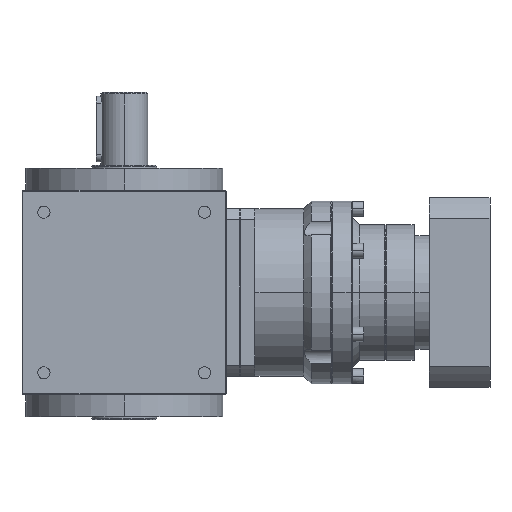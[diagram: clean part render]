
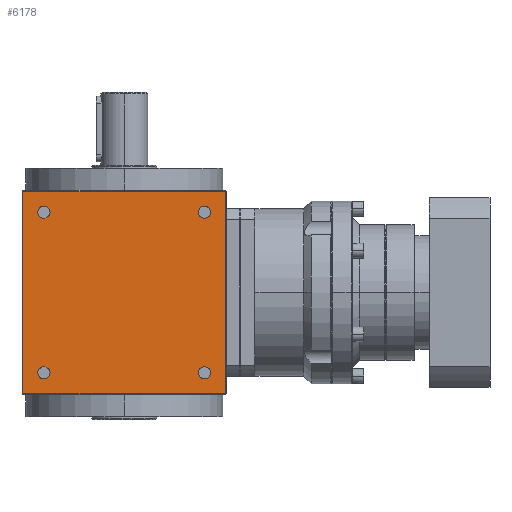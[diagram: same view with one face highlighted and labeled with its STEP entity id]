
A CAD part, left-side view. The second image highlights one B-rep face of the part: STEP entity #6178.
In plain terms, the highlighted planar face has unit normal (-1, 0, 0).
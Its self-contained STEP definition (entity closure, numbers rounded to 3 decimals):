
#2 = EDGE_CURVE ( 'NONE', #6098, #3600, #12531, .T. ) ;
#235 = CARTESIAN_POINT ( 'NONE',  ( -70., 70., -69.5 ) ) ;
#646 = AXIS2_PLACEMENT_3D ( 'NONE', #16558, #2884, #8541 ) ;
#844 = CARTESIAN_POINT ( 'NONE',  ( -70., 70., -70. ) ) ;
#926 = CARTESIAN_POINT ( 'NONE',  ( -70., -55., 59.2 ) ) ;
#1051 = VERTEX_POINT ( 'NONE', #9331 ) ;
#1485 = ORIENTED_EDGE ( 'NONE', *, *, #16476, .T. ) ;
#1593 = LINE ( 'NONE', #235, #8952 ) ;
#1654 = VERTEX_POINT ( 'NONE', #16585 ) ;
#1694 = VERTEX_POINT ( 'NONE', #926 ) ;
#1961 = CARTESIAN_POINT ( 'NONE',  ( -70., 70., 69.5 ) ) ;
#1981 = DIRECTION ( 'NONE',  ( 0., 0., 1. ) ) ;
#2006 = ORIENTED_EDGE ( 'NONE', *, *, #2, .T. ) ;
#2127 = DIRECTION ( 'NONE',  ( 1., 0., 0. ) ) ;
#2218 = CARTESIAN_POINT ( 'NONE',  ( -70., 55., 59.2 ) ) ;
#2248 = ORIENTED_EDGE ( 'NONE', *, *, #5819, .T. ) ;
#2570 = AXIS2_PLACEMENT_3D ( 'NONE', #844, #4796, #14517 ) ;
#2625 = DIRECTION ( 'NONE',  ( 0., 0., 1. ) ) ;
#2884 = DIRECTION ( 'NONE',  ( 1., 0., 0. ) ) ;
#2900 = CARTESIAN_POINT ( 'NONE',  ( -70., -55., -50.8 ) ) ;
#3051 = EDGE_CURVE ( 'NONE', #5790, #11901, #4442, .T. ) ;
#3105 = LINE ( 'NONE', #6173, #16708 ) ;
#3125 = CIRCLE ( 'NONE', #13191, 4.2 ) ;
#3345 = VERTEX_POINT ( 'NONE', #6304 ) ;
#3452 = FACE_BOUND ( 'NONE', #13652, .T. ) ;
#3543 = FACE_BOUND ( 'NONE', #16658, .T. ) ;
#3581 = CARTESIAN_POINT ( 'NONE',  ( -70., -55., 50.8 ) ) ;
#3600 = VERTEX_POINT ( 'NONE', #2900 ) ;
#3617 = CARTESIAN_POINT ( 'NONE',  ( -70., -55., -55. ) ) ;
#3766 = CARTESIAN_POINT ( 'NONE',  ( -70., 55., 55. ) ) ;
#4001 = VERTEX_POINT ( 'NONE', #13683 ) ;
#4063 = DIRECTION ( 'NONE',  ( 0., 0., 1. ) ) ;
#4221 = VERTEX_POINT ( 'NONE', #3581 ) ;
#4442 = CIRCLE ( 'NONE', #11635, 4.2 ) ;
#4796 = DIRECTION ( 'NONE',  ( -1., 0., 0. ) ) ;
#4817 = EDGE_CURVE ( 'NONE', #1654, #5770, #7962, .T. ) ;
#5052 = FACE_BOUND ( 'NONE', #10822, .T. ) ;
#5355 = ORIENTED_EDGE ( 'NONE', *, *, #3051, .T. ) ;
#5436 = EDGE_CURVE ( 'NONE', #11901, #5790, #10067, .T. ) ;
#5611 = EDGE_LOOP ( 'NONE', ( #16586, #5964 ) ) ;
#5710 = CARTESIAN_POINT ( 'NONE',  ( -70., -55., -59.2 ) ) ;
#5770 = VERTEX_POINT ( 'NONE', #10054 ) ;
#5790 = VERTEX_POINT ( 'NONE', #2218 ) ;
#5819 = EDGE_CURVE ( 'NONE', #1694, #4221, #7169, .T. ) ;
#5964 = ORIENTED_EDGE ( 'NONE', *, *, #14638, .T. ) ;
#6098 = VERTEX_POINT ( 'NONE', #5710 ) ;
#6173 = CARTESIAN_POINT ( 'NONE',  ( -70., -69.5, -70. ) ) ;
#6178 = ADVANCED_FACE ( 'NONE', ( #17144, #3452, #11655, #3543, #5052 ), #15954, .T. ) ;
#6220 = DIRECTION ( 'NONE',  ( 1., 0., 0. ) ) ;
#6304 = CARTESIAN_POINT ( 'NONE',  ( -70., -69.5, -69.5 ) ) ;
#6608 = ORIENTED_EDGE ( 'NONE', *, *, #14208, .T. ) ;
#6794 = CARTESIAN_POINT ( 'NONE',  ( -70., 69.5, -70. ) ) ;
#6854 = CARTESIAN_POINT ( 'NONE',  ( -70., 55., 55. ) ) ;
#6934 = VECTOR ( 'NONE', #11780, 1000. ) ;
#7169 = CIRCLE ( 'NONE', #17240, 4.2 ) ;
#7445 = AXIS2_PLACEMENT_3D ( 'NONE', #9290, #17577, #4063 ) ;
#7449 = LINE ( 'NONE', #1961, #6934 ) ;
#7728 = CIRCLE ( 'NONE', #7445, 4.2 ) ;
#7962 = LINE ( 'NONE', #6794, #12852 ) ;
#8541 = DIRECTION ( 'NONE',  ( 0., 0., 1. ) ) ;
#8851 = ORIENTED_EDGE ( 'NONE', *, *, #13708, .T. ) ;
#8952 = VECTOR ( 'NONE', #16706, 1000. ) ;
#9059 = CARTESIAN_POINT ( 'NONE',  ( -70., -55., 55. ) ) ;
#9074 = EDGE_CURVE ( 'NONE', #1051, #15447, #16158, .T. ) ;
#9290 = CARTESIAN_POINT ( 'NONE',  ( -70., 55., -55. ) ) ;
#9331 = CARTESIAN_POINT ( 'NONE',  ( -70., 55., -50.8 ) ) ;
#9946 = CARTESIAN_POINT ( 'NONE',  ( -70., -55., -55. ) ) ;
#10034 = DIRECTION ( 'NONE',  ( 1., 0., 0. ) ) ;
#10054 = CARTESIAN_POINT ( 'NONE',  ( -70., 69.5, -69.5 ) ) ;
#10067 = CIRCLE ( 'NONE', #16662, 4.2 ) ;
#10183 = CARTESIAN_POINT ( 'NONE',  ( -70., -55., 55. ) ) ;
#10292 = DIRECTION ( 'NONE',  ( 0., 0., 1. ) ) ;
#10822 = EDGE_LOOP ( 'NONE', ( #5355, #15281 ) ) ;
#10912 = DIRECTION ( 'NONE',  ( 1., 0., 0. ) ) ;
#11275 = EDGE_LOOP ( 'NONE', ( #13825, #1485, #11948, #8851 ) ) ;
#11635 = AXIS2_PLACEMENT_3D ( 'NONE', #6854, #10912, #2625 ) ;
#11655 = FACE_BOUND ( 'NONE', #5611, .T. ) ;
#11780 = DIRECTION ( 'NONE',  ( 0., 1., 0. ) ) ;
#11901 = VERTEX_POINT ( 'NONE', #14300 ) ;
#11948 = ORIENTED_EDGE ( 'NONE', *, *, #4817, .T. ) ;
#12290 = DIRECTION ( 'NONE',  ( 0., 0., -1. ) ) ;
#12531 = CIRCLE ( 'NONE', #16545, 4.2 ) ;
#12832 = DIRECTION ( 'NONE',  ( 0., 0., 1. ) ) ;
#12852 = VECTOR ( 'NONE', #12290, 1000. ) ;
#13191 = AXIS2_PLACEMENT_3D ( 'NONE', #3617, #14510, #10292 ) ;
#13305 = DIRECTION ( 'NONE',  ( 1., 0., 0. ) ) ;
#13652 = EDGE_LOOP ( 'NONE', ( #2248, #6608 ) ) ;
#13683 = CARTESIAN_POINT ( 'NONE',  ( -70., -69.5, 69.5 ) ) ;
#13708 = EDGE_CURVE ( 'NONE', #5770, #3345, #1593, .T. ) ;
#13813 = EDGE_CURVE ( 'NONE', #3345, #4001, #3105, .T. ) ;
#13825 = ORIENTED_EDGE ( 'NONE', *, *, #13813, .T. ) ;
#13986 = CARTESIAN_POINT ( 'NONE',  ( -70., 55., -59.2 ) ) ;
#14208 = EDGE_CURVE ( 'NONE', #4221, #1694, #16144, .T. ) ;
#14300 = CARTESIAN_POINT ( 'NONE',  ( -70., 55., 50.8 ) ) ;
#14492 = EDGE_CURVE ( 'NONE', #3600, #6098, #3125, .T. ) ;
#14510 = DIRECTION ( 'NONE',  ( 1., 0., 0. ) ) ;
#14517 = DIRECTION ( 'NONE',  ( 0., 0., 1. ) ) ;
#14638 = EDGE_CURVE ( 'NONE', #15447, #1051, #7728, .T. ) ;
#15281 = ORIENTED_EDGE ( 'NONE', *, *, #5436, .T. ) ;
#15420 = DIRECTION ( 'NONE',  ( 0., 0., 1. ) ) ;
#15447 = VERTEX_POINT ( 'NONE', #13986 ) ;
#15493 = ORIENTED_EDGE ( 'NONE', *, *, #14492, .T. ) ;
#15954 = PLANE ( 'NONE',  #2570 ) ;
#16063 = DIRECTION ( 'NONE',  ( 0., 0., 1. ) ) ;
#16144 = CIRCLE ( 'NONE', #17593, 4.2 ) ;
#16158 = CIRCLE ( 'NONE', #646, 4.2 ) ;
#16476 = EDGE_CURVE ( 'NONE', #4001, #1654, #7449, .T. ) ;
#16545 = AXIS2_PLACEMENT_3D ( 'NONE', #9946, #10034, #15420 ) ;
#16558 = CARTESIAN_POINT ( 'NONE',  ( -70., 55., -55. ) ) ;
#16585 = CARTESIAN_POINT ( 'NONE',  ( -70., 69.5, 69.5 ) ) ;
#16586 = ORIENTED_EDGE ( 'NONE', *, *, #9074, .T. ) ;
#16658 = EDGE_LOOP ( 'NONE', ( #15493, #2006 ) ) ;
#16662 = AXIS2_PLACEMENT_3D ( 'NONE', #3766, #13305, #17450 ) ;
#16706 = DIRECTION ( 'NONE',  ( 0., -1., 0. ) ) ;
#16708 = VECTOR ( 'NONE', #12832, 1000. ) ;
#17144 = FACE_OUTER_BOUND ( 'NONE', #11275, .T. ) ;
#17240 = AXIS2_PLACEMENT_3D ( 'NONE', #9059, #2127, #16063 ) ;
#17450 = DIRECTION ( 'NONE',  ( 0., 0., 1. ) ) ;
#17577 = DIRECTION ( 'NONE',  ( 1., 0., 0. ) ) ;
#17593 = AXIS2_PLACEMENT_3D ( 'NONE', #10183, #6220, #1981 ) ;
